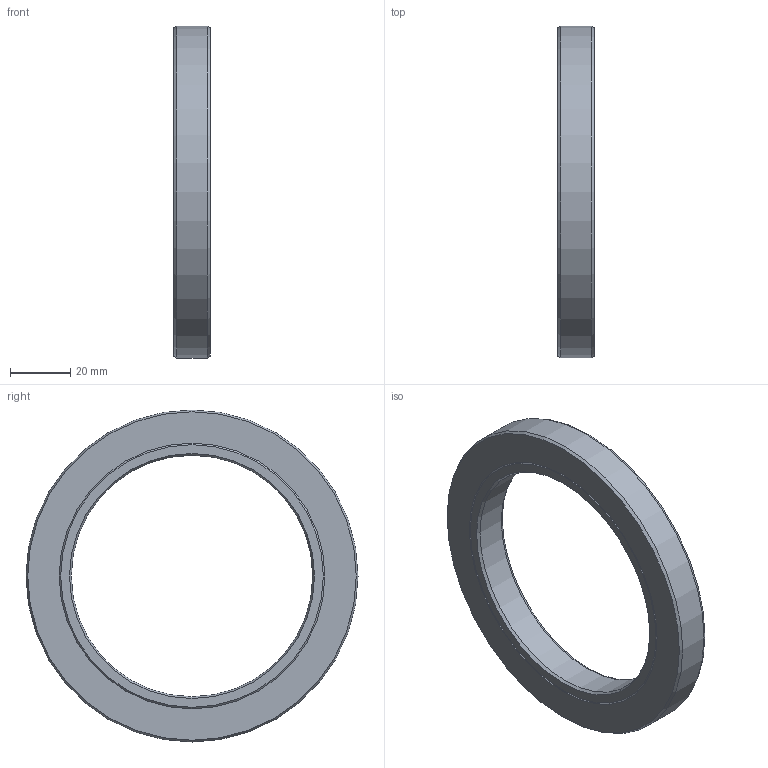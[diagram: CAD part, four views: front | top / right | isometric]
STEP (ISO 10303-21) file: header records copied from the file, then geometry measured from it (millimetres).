
FILE_DESCRIPTION(/* description */ (''),/* implementation_level */ '2;1');
FILE_NAME(/* name */ '301944 SA 80x110x12.stp',/* time_stamp */ '2016-12-16T15:05:19+01:00',/* author */ (''),/* organization */ (''),/* preprocessor_version */ 'ST-DEVELOPER v15',/* originating_system */ 'SIEMENS PLM Software NX 8.5',/* authorisation */ '');
FILE_SCHEMA (('CONFIG_CONTROL_DESIGN'));
Length unit declared in the file: millimetre
Products named in the file (1): ATE0000144_01
Bounding box: 12 x 110 x 110 mm (x, y, z)
Volume: 51441 mm3; surface area: 24446.7 mm2
Topology: 2 solids, 2 shells, 18 faces, 37 edges, 23 vertices
Faces by surface type: cone 10, plane 5, cylinder 3
Full cylindrical faces by diameter (mm): 80 x1, 110 x1
Entity records: 492 total; most frequent: DIRECTION 76, CARTESIAN_POINT 74, ORIENTED_EDGE 46, AXIS2_PLACEMENT_3D 38, EDGE_LOOP 33, FACE_BOUND 30, EDGE_CURVE 23, VERTEX_POINT 20
